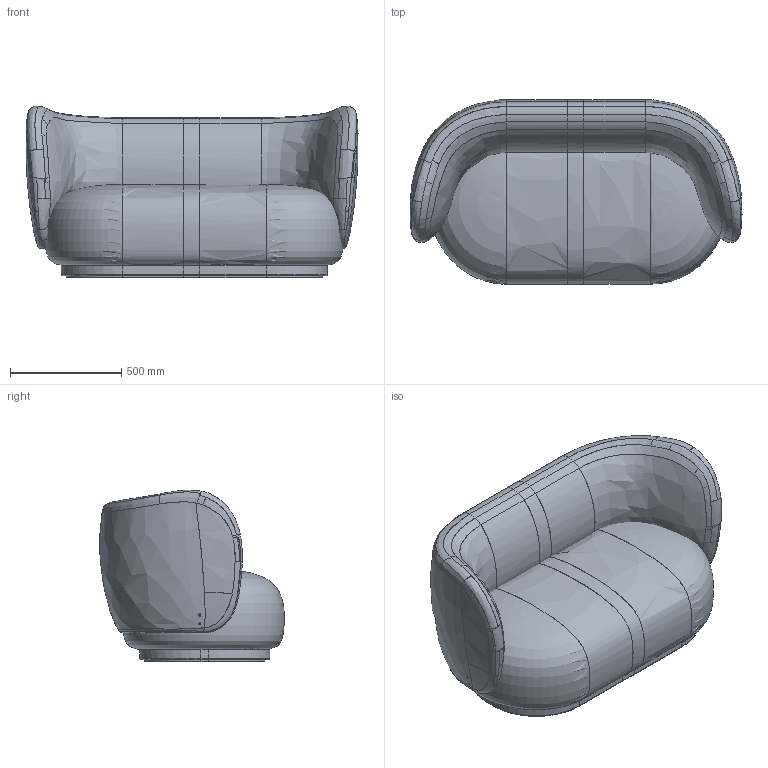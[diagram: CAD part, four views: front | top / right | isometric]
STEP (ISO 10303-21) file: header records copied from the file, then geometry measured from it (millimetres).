
FILE_DESCRIPTION(/* description */ (''),/* implementation_level */ '2;1');
FILE_NAME(/* name */ 'RV5GZE~U',/* time_stamp */ '2021-03-04T10:59:31+01:00',/* author */ (''),/* organization */ (''),/* preprocessor_version */ 'ST-DEVELOPER v16.5',/* originating_system */ '',/* authorisation */ '');
FILE_SCHEMA (('AUTOMOTIVE_DESIGN'));
Products named in the file (1): Document
Bounding box: 1494.17 x 829.95 x 773.03 mm (x, y, z)
Surface area: 7897629 mm2 (no closed solid volume)
Topology: 0 solids, 755 shells, 755 faces, 4140 edges, 4122 vertices
Faces by surface type: bspline 666, plane 89
Entity records: 271391 total; most frequent: CARTESIAN_POINT 250569, ORIENTED_EDGE 4122, EDGE_CURVE 4122, VERTEX_POINT 4122, B_SPLINE_CURVE_WITH_KNOTS 3270, EDGE_LOOP 807, PRESENTATION_LAYER_ASSIGNMENT 755, SHELL_BASED_SURFACE_MODEL 755
